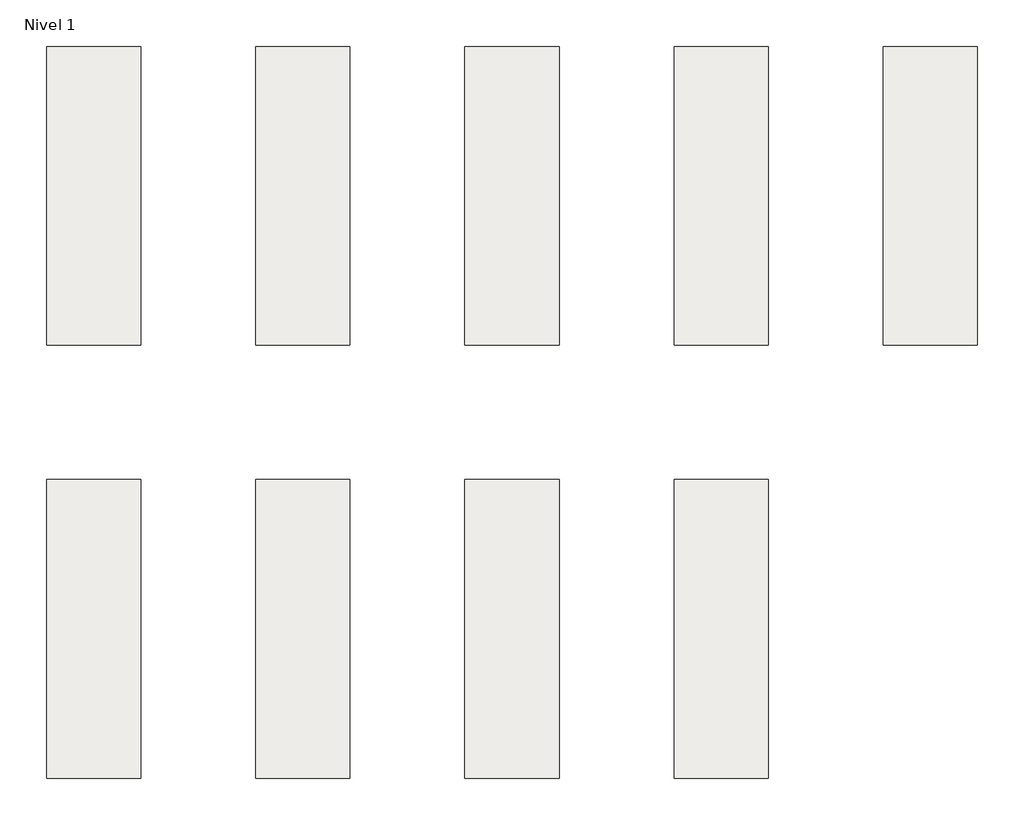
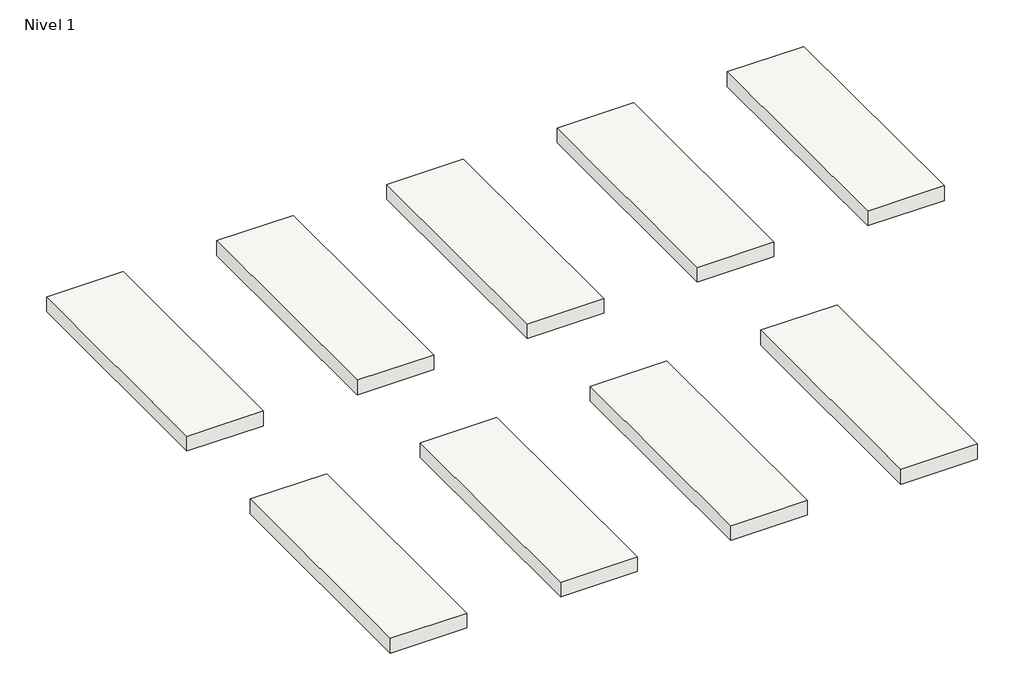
# One storey: 9 slabs.
"""IFC4 building model written with IfcOpenShell, lengths in millimetres."""

from ifc_helpers import new_model, si_unit, frame, origin, place, context, project, spatial, polyline, outline, extrude, element, save

model = new_model("IFC4")

# Units and contexts
model_context = context("Model", 3, world=origin())
ifc_project = project(units=[si_unit("LENGTHUNIT", "METRE", prefix="MILLI")], contexts=[model_context])

# Site, building, storey
site = spatial("IfcSite", under=ifc_project)
building = spatial("IfcBuilding", under=site)
storey = spatial("IfcBuildingStorey", under=building, Name="Nivel 1", Elevation=0.0)

# Slabs
placement = place(None, origin())
element("IfcSlab", 1, ObjectType="Mitica Blanco 31,5X100", at=placement, inside=storey, context=model_context, shape_type="SweptSolid", body=[
    extrude(outline(polyline([(0.0, 1000.0), (315.0, 1000.0), (315.0, 0.0), (0.0, 0.0), (0.0, 1000.0)])), frame((0.0, 0.0, -63.7), z_axis=(0.0, 0.0, 1.0), x_axis=(1.0, 0.0, 0.0)), (0.0, 0.0, 1.0), 63.7),
])
element("IfcSlab", 2, ObjectType="Mitica Marfil 31,5X100", at=placement, inside=storey, context=model_context, shape_type="SweptSolid", body=[
    extrude(outline(polyline([(700.0, 1000.0), (1015.0, 1000.0), (1015.0, 0.0), (700.0, 0.0), (700.0, 1000.0)])), frame((0.0, 0.0, -63.7), z_axis=(0.0, 0.0, 1.0), x_axis=(1.0, 0.0, 0.0)), (0.0, 0.0, 1.0), 63.7),
])
element("IfcSlab", 3, ObjectType="Mitica Perla 31,5X100", at=placement, inside=storey, context=model_context, shape_type="SweptSolid", body=[
    extrude(outline(polyline([(1400.0, 1000.0), (1715.0, 1000.0), (1715.0, 0.0), (1400.0, 0.0), (1400.0, 1000.0)])), frame((0.0, 0.0, -63.7), z_axis=(0.0, 0.0, 1.0), x_axis=(1.0, 0.0, 0.0)), (0.0, 0.0, 1.0), 63.7),
])
element("IfcSlab", 4, ObjectType="Naveta Blanco 31,5X100", at=placement, inside=storey, context=model_context, shape_type="SweptSolid", body=[
    extrude(outline(polyline([(2100.0, 1000.0), (2415.0, 1000.0), (2415.0, 0.0), (2100.0, 0.0), (2100.0, 1000.0)])), frame((0.0, 0.0, -63.7), z_axis=(0.0, 0.0, 1.0), x_axis=(1.0, 0.0, 0.0)), (0.0, 0.0, 1.0), 63.7),
])
element("IfcSlab", 5, ObjectType="Naveta Marfil 31,5X100", at=placement, inside=storey, context=model_context, shape_type="SweptSolid", body=[
    extrude(outline(polyline([(2800.0, 1000.0), (3115.0, 1000.0), (3115.0, 0.0), (2800.0, 0.0), (2800.0, 1000.0)])), frame((0.0, 0.0, -63.7), z_axis=(0.0, 0.0, 1.0), x_axis=(1.0, 0.0, 0.0)), (0.0, 0.0, 1.0), 63.7),
])
element("IfcSlab", 6, ObjectType="Naveta Perla 31,5X100", at=placement, inside=storey, context=model_context, shape_type="SweptSolid", body=[
    extrude(outline(polyline([(0.0, -450.0), (315.0, -450.0), (315.0, -1450.0), (0.0, -1450.0), (0.0, -450.0)])), frame((0.0, 0.0, -63.7), z_axis=(0.0, 0.0, 1.0), x_axis=(1.0, 0.0, 0.0)), (0.0, 0.0, 1.0), 63.7),
])
element("IfcSlab", 7, ObjectType="Tudons Blanco 31,5X100", at=placement, inside=storey, context=model_context, shape_type="SweptSolid", body=[
    extrude(outline(polyline([(700.0, -450.0), (1015.0, -450.0), (1015.0, -1450.0), (700.0, -1450.0), (700.0, -450.0)])), frame((0.0, 0.0, -63.7), z_axis=(0.0, 0.0, 1.0), x_axis=(1.0, 0.0, 0.0)), (0.0, 0.0, 1.0), 63.7),
])
element("IfcSlab", 8, ObjectType="Tudons Marfil 31,5X100", at=placement, inside=storey, context=model_context, shape_type="SweptSolid", body=[
    extrude(outline(polyline([(1400.0, -450.0), (1715.0, -450.0), (1715.0, -1450.0), (1400.0, -1450.0), (1400.0, -450.0)])), frame((0.0, 0.0, -63.7), z_axis=(0.0, 0.0, 1.0), x_axis=(1.0, 0.0, 0.0)), (0.0, 0.0, 1.0), 63.7),
])
element("IfcSlab", 9, ObjectType="Tudons Perla 31,5X100", at=placement, inside=storey, context=model_context, shape_type="SweptSolid", body=[
    extrude(outline(polyline([(2100.0, -450.0), (2415.0, -450.0), (2415.0, -1450.0), (2100.0, -1450.0), (2100.0, -450.0)])), frame((0.0, 0.0, -63.7), z_axis=(0.0, 0.0, 1.0), x_axis=(1.0, 0.0, 0.0)), (0.0, 0.0, 1.0), 63.7),
])

save(model, "model.ifc")
